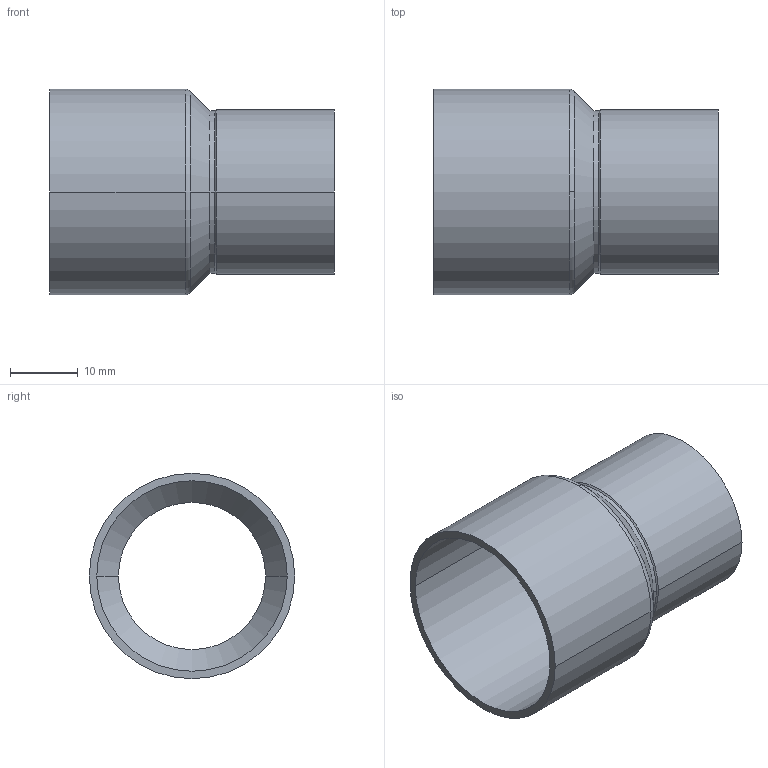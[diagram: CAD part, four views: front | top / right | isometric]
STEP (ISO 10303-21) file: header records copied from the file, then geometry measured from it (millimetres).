
FILE_DESCRIPTION((''),'2;1');
FILE_NAME('G:\Technics\CAD\Bauteile\Serie 15240\152402822.stp','2005-10-21T12:51:11',('boden'),(''),'Autodesk Inventor 8','Autodesk Inventor 8','');
FILE_SCHEMA(('AUTOMOTIVE_DESIGN { 1 0 10303 214 1 1 1 1 }'));
Length unit declared in the file: millimetre
Products named in the file (1): 152402822
Bounding box: 42 x 30.33 x 30.33 mm (x, y, z)
Volume: 3943.7 mm3; surface area: 7351.4 mm2
Topology: 1 solids, 1 shells, 24 faces, 52 edges, 30 vertices
Faces by surface type: cylinder 12, cone 8, torus 2, plane 2
Entity records: 683 total; most frequent: DIRECTION 134, CARTESIAN_POINT 107, ORIENTED_EDGE 104, AXIS2_PLACEMENT_3D 57, EDGE_CURVE 52, CIRCLE 32, VERTEX_POINT 30, EDGE_LOOP 26
